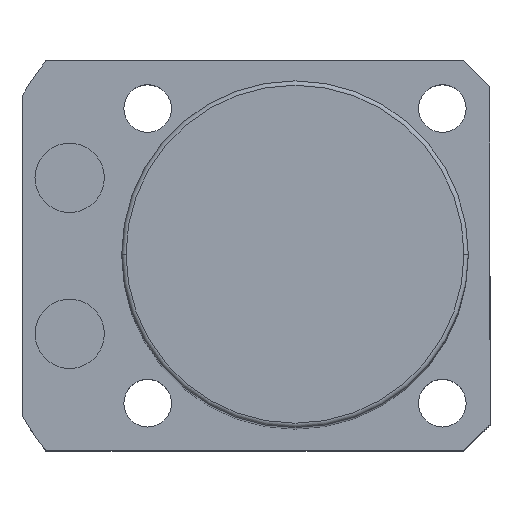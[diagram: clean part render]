
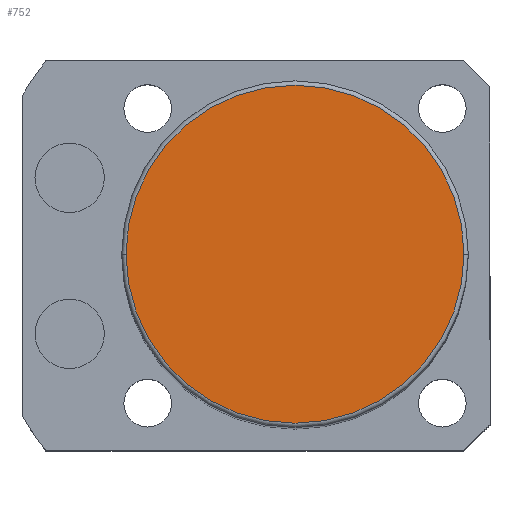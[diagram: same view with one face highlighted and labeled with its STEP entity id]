
A CAD part, top view. The second image highlights one B-rep face of the part: STEP entity #752.
In plain terms, the highlighted planar face has unit normal (0, 0, 1).
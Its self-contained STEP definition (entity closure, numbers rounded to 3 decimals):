
#174 = CARTESIAN_POINT ( 'NONE',  ( 0., 0., 118.5 ) ) ;
#257 = CARTESIAN_POINT ( 'NONE',  ( 0., 0., 118.5 ) ) ;
#276 = EDGE_LOOP ( 'NONE', ( #1866, #1294 ) ) ;
#480 = EDGE_CURVE ( 'NONE', #2055, #1053, #1138, .T. ) ;
#497 = AXIS2_PLACEMENT_3D ( 'NONE', #257, #1065, #2379 ) ;
#504 = FACE_OUTER_BOUND ( 'NONE', #276, .T. ) ;
#521 = CIRCLE ( 'NONE', #497, 19.5 ) ;
#752 = ADVANCED_FACE ( 'NONE', ( #504 ), #1435, .T. ) ;
#944 = CARTESIAN_POINT ( 'NONE',  ( 19.5, 0., 118.5 ) ) ;
#1053 = VERTEX_POINT ( 'NONE', #2393 ) ;
#1065 = DIRECTION ( 'NONE',  ( 0., 0., 1. ) ) ;
#1138 = CIRCLE ( 'NONE', #1256, 19.5 ) ;
#1256 = AXIS2_PLACEMENT_3D ( 'NONE', #174, #2107, #2478 ) ;
#1294 = ORIENTED_EDGE ( 'NONE', *, *, #2340, .T. ) ;
#1435 = PLANE ( 'NONE',  #2274 ) ;
#1628 = DIRECTION ( 'NONE',  ( 0., 0., 1. ) ) ;
#1821 = CARTESIAN_POINT ( 'NONE',  ( 0., 0., 118.5 ) ) ;
#1866 = ORIENTED_EDGE ( 'NONE', *, *, #480, .T. ) ;
#2055 = VERTEX_POINT ( 'NONE', #944 ) ;
#2107 = DIRECTION ( 'NONE',  ( 0., 0., 1. ) ) ;
#2274 = AXIS2_PLACEMENT_3D ( 'NONE', #1821, #1628, #2386 ) ;
#2340 = EDGE_CURVE ( 'NONE', #1053, #2055, #521, .T. ) ;
#2379 = DIRECTION ( 'NONE',  ( 1., 0., 0. ) ) ;
#2386 = DIRECTION ( 'NONE',  ( 1., 0., 0. ) ) ;
#2393 = CARTESIAN_POINT ( 'NONE',  ( -19.5, 0., 118.5 ) ) ;
#2478 = DIRECTION ( 'NONE',  ( 1., 0., 0. ) ) ;
